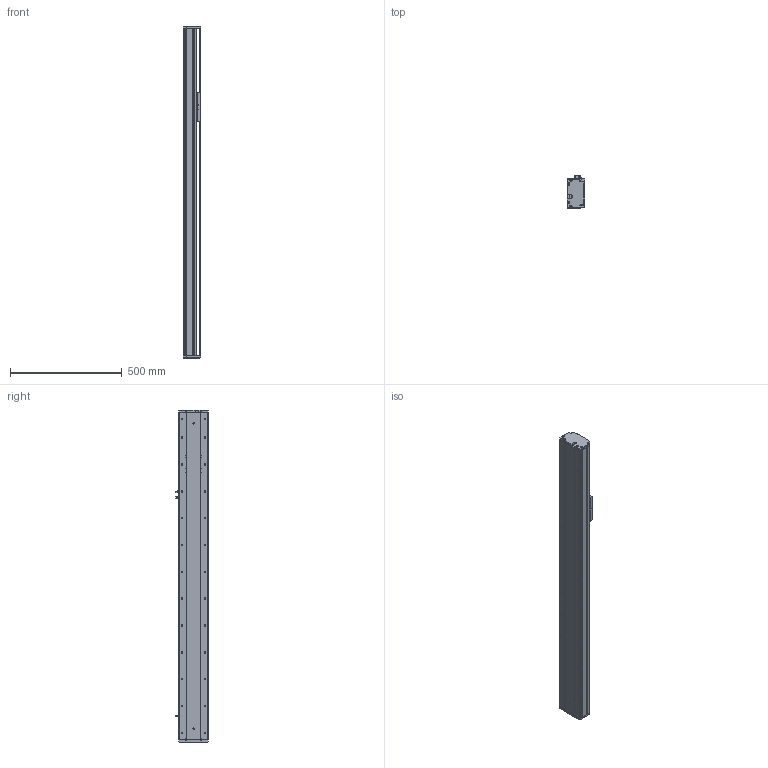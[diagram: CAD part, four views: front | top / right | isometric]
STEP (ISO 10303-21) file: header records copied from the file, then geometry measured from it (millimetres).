
FILE_DESCRIPTION (( 'STEP AP214' ), '1' );
FILE_NAME ('KSD130S-P2010-S1000-M-CM.STEP', '2019-09-10T07:06:30', ( '微软用户' ), ( '微软中国' ), 'SwSTEP 2.0', 'SolidWorks 2014', '' );
FILE_SCHEMA (( 'AUTOMOTIVE_DESIGN' ));
Length unit declared in the file: millimetre
Products named in the file (8): 130宽马达安装板半封闭-内装; U倰嫖萇EEㄜSX672; 覜茼え100遵圉猾敕; 130宽盖板半封闭丝杠内装-1000行程; 130宽滚珠丝杆安装板半封闭-内装-20丝杆; 130宽端盖半封闭-内装; 130宽底板半封闭丝杠内装-1000行程; KSD130S-P2010-S1000-M-CM
Assembly tree (9 placements, depth 2):
  KSD130S-P2010-S1000-M-CM
    130宽底板半封闭丝杠内装-1000行程
    130宽端盖半封闭-内装
    130宽滚珠丝杆安装板半封闭-内装-20丝杆
    130宽盖板半封闭丝杠内装-1000行程
    覜茼え100遵圉猾敕
    U倰嫖萇EEㄜSX672  x3
    130宽马达安装板半封闭-内装
Bounding box: 80 x 143.7 x 1485 mm (x, y, z)
Volume: 4363197.9 mm3; surface area: 1341466.5 mm2
Topology: 9 solids, 9 shells, 1195 faces, 3524 edges, 2228 vertices
Faces by surface type: cylinder 554, plane 463, cone 178
Entity records: 39962 total; most frequent: CARTESIAN_POINT 7949, DIRECTION 5774, ORIENTED_EDGE 5688, EDGE_CURVE 2844, AXIS2_PLACEMENT_3D 2117, VERTEX_POINT 1852, LINE 1540, VECTOR 1540
